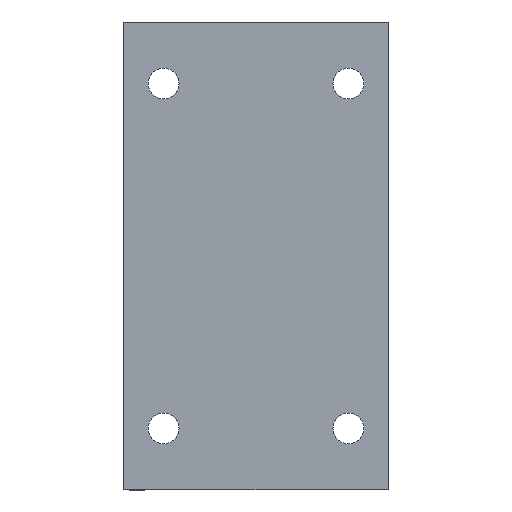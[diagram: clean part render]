
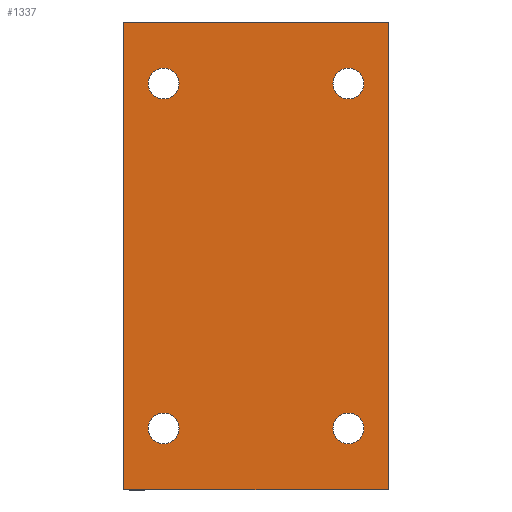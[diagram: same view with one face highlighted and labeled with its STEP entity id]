
A CAD part, front view. The second image highlights one B-rep face of the part: STEP entity #1337.
In plain terms, the highlighted planar face has unit normal (0, -1, 0).
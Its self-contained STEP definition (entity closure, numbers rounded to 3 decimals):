
#12 = CIRCLE ( 'NONE', #598, 2.5 ) ;
#28 = CARTESIAN_POINT ( 'NONE',  ( 15., -15., 25.5 ) ) ;
#44 = ORIENTED_EDGE ( 'NONE', *, *, #1374, .F. ) ;
#56 = EDGE_LOOP ( 'NONE', ( #1048, #515 ) ) ;
#74 = DIRECTION ( 'NONE',  ( 0., 0., -1. ) ) ;
#77 = AXIS2_PLACEMENT_3D ( 'NONE', #334, #469, #1437 ) ;
#113 = EDGE_CURVE ( 'NONE', #1190, #1157, #1650, .T. ) ;
#144 = DIRECTION ( 'NONE',  ( 0., -1., 0. ) ) ;
#159 = CARTESIAN_POINT ( 'NONE',  ( -21.5, -15., 38. ) ) ;
#206 = CARTESIAN_POINT ( 'NONE',  ( 15., -15., -25.5 ) ) ;
#221 = ORIENTED_EDGE ( 'NONE', *, *, #1725, .F. ) ;
#238 = DIRECTION ( 'NONE',  ( 0., -1., 0. ) ) ;
#239 = AXIS2_PLACEMENT_3D ( 'NONE', #621, #1363, #2101 ) ;
#246 = VERTEX_POINT ( 'NONE', #680 ) ;
#247 = ORIENTED_EDGE ( 'NONE', *, *, #1648, .F. ) ;
#295 = EDGE_CURVE ( 'NONE', #1942, #833, #12, .T. ) ;
#302 = DIRECTION ( 'NONE',  ( 1., 0., 0. ) ) ;
#334 = CARTESIAN_POINT ( 'NONE',  ( -15., -15., -28. ) ) ;
#347 = CIRCLE ( 'NONE', #77, 2.5 ) ;
#424 = ORIENTED_EDGE ( 'NONE', *, *, #536, .T. ) ;
#435 = AXIS2_PLACEMENT_3D ( 'NONE', #755, #238, #989 ) ;
#469 = DIRECTION ( 'NONE',  ( 0., -1., 0. ) ) ;
#510 = DIRECTION ( 'NONE',  ( 0., 0., 1. ) ) ;
#513 = DIRECTION ( 'NONE',  ( 1., 0., 0. ) ) ;
#515 = ORIENTED_EDGE ( 'NONE', *, *, #113, .F. ) ;
#522 = DIRECTION ( 'NONE',  ( 0., 1., 0. ) ) ;
#536 = EDGE_CURVE ( 'NONE', #805, #591, #906, .T. ) ;
#591 = VERTEX_POINT ( 'NONE', #893 ) ;
#598 = AXIS2_PLACEMENT_3D ( 'NONE', #1248, #2390, #719 ) ;
#606 = CARTESIAN_POINT ( 'NONE',  ( 15., -15., 28. ) ) ;
#620 = LINE ( 'NONE', #1900, #2166 ) ;
#621 = CARTESIAN_POINT ( 'NONE',  ( 15., -15., -28. ) ) ;
#649 = ORIENTED_EDGE ( 'NONE', *, *, #295, .F. ) ;
#664 = VERTEX_POINT ( 'NONE', #2059 ) ;
#666 = AXIS2_PLACEMENT_3D ( 'NONE', #159, #522, #510 ) ;
#667 = CIRCLE ( 'NONE', #2055, 2.5 ) ;
#680 = CARTESIAN_POINT ( 'NONE',  ( 21.5, -15., 38. ) ) ;
#686 = LINE ( 'NONE', #1233, #2393 ) ;
#719 = DIRECTION ( 'NONE',  ( 0., 0., -1. ) ) ;
#721 = EDGE_LOOP ( 'NONE', ( #1317, #1645 ) ) ;
#725 = FACE_BOUND ( 'NONE', #56, .T. ) ;
#755 = CARTESIAN_POINT ( 'NONE',  ( 15., -15., 28. ) ) ;
#804 = CARTESIAN_POINT ( 'NONE',  ( 15., -15., 30.5 ) ) ;
#805 = VERTEX_POINT ( 'NONE', #1024 ) ;
#833 = VERTEX_POINT ( 'NONE', #1063 ) ;
#841 = EDGE_CURVE ( 'NONE', #1076, #1289, #347, .T. ) ;
#855 = CARTESIAN_POINT ( 'NONE',  ( -21.5, -15., 38. ) ) ;
#873 = FACE_BOUND ( 'NONE', #721, .T. ) ;
#874 = EDGE_CURVE ( 'NONE', #591, #2025, #686, .T. ) ;
#893 = CARTESIAN_POINT ( 'NONE',  ( -21.5, -15., -38. ) ) ;
#901 = CIRCLE ( 'NONE', #2247, 2.5 ) ;
#906 = LINE ( 'NONE', #855, #2299 ) ;
#989 = DIRECTION ( 'NONE',  ( 0., 0., -1. ) ) ;
#998 = DIRECTION ( 'NONE',  ( 0., -1., 0. ) ) ;
#1024 = CARTESIAN_POINT ( 'NONE',  ( -21.5, -15., 38. ) ) ;
#1048 = ORIENTED_EDGE ( 'NONE', *, *, #2380, .F. ) ;
#1058 = CARTESIAN_POINT ( 'NONE',  ( -15., -15., 25.5 ) ) ;
#1063 = CARTESIAN_POINT ( 'NONE',  ( 15., -15., -30.5 ) ) ;
#1076 = VERTEX_POINT ( 'NONE', #1304 ) ;
#1129 = DIRECTION ( 'NONE',  ( 0., -1., 0. ) ) ;
#1157 = VERTEX_POINT ( 'NONE', #28 ) ;
#1167 = EDGE_LOOP ( 'NONE', ( #1261, #649 ) ) ;
#1190 = VERTEX_POINT ( 'NONE', #804 ) ;
#1210 = AXIS2_PLACEMENT_3D ( 'NONE', #2146, #1626, #2165 ) ;
#1233 = CARTESIAN_POINT ( 'NONE',  ( -21.5, -15., -38. ) ) ;
#1248 = CARTESIAN_POINT ( 'NONE',  ( 15., -15., -28. ) ) ;
#1257 = EDGE_CURVE ( 'NONE', #246, #2025, #620, .T. ) ;
#1261 = ORIENTED_EDGE ( 'NONE', *, *, #1661, .F. ) ;
#1289 = VERTEX_POINT ( 'NONE', #1778 ) ;
#1301 = EDGE_LOOP ( 'NONE', ( #1372, #1729, #221, #424 ) ) ;
#1304 = CARTESIAN_POINT ( 'NONE',  ( -15., -15., -30.5 ) ) ;
#1317 = ORIENTED_EDGE ( 'NONE', *, *, #841, .F. ) ;
#1337 = ADVANCED_FACE ( 'NONE', ( #725, #2385, #873, #1655, #1644 ), #1998, .F. ) ;
#1363 = DIRECTION ( 'NONE',  ( 0., -1., 0. ) ) ;
#1372 = ORIENTED_EDGE ( 'NONE', *, *, #874, .T. ) ;
#1374 = EDGE_CURVE ( 'NONE', #664, #1703, #901, .T. ) ;
#1437 = DIRECTION ( 'NONE',  ( 0., 0., -1. ) ) ;
#1456 = DIRECTION ( 'NONE',  ( 0., 0., -1. ) ) ;
#1475 = CIRCLE ( 'NONE', #239, 2.5 ) ;
#1626 = DIRECTION ( 'NONE',  ( 0., -1., 0. ) ) ;
#1644 = FACE_BOUND ( 'NONE', #1167, .T. ) ;
#1645 = ORIENTED_EDGE ( 'NONE', *, *, #1761, .F. ) ;
#1648 = EDGE_CURVE ( 'NONE', #1703, #664, #667, .T. ) ;
#1650 = CIRCLE ( 'NONE', #2304, 2.5 ) ;
#1655 = FACE_OUTER_BOUND ( 'NONE', #1301, .T. ) ;
#1661 = EDGE_CURVE ( 'NONE', #833, #1942, #1475, .T. ) ;
#1703 = VERTEX_POINT ( 'NONE', #1058 ) ;
#1725 = EDGE_CURVE ( 'NONE', #805, #246, #1807, .T. ) ;
#1729 = ORIENTED_EDGE ( 'NONE', *, *, #1257, .F. ) ;
#1761 = EDGE_CURVE ( 'NONE', #1289, #1076, #2249, .T. ) ;
#1768 = DIRECTION ( 'NONE',  ( 0., 0., -1. ) ) ;
#1778 = CARTESIAN_POINT ( 'NONE',  ( -15., -15., -25.5 ) ) ;
#1807 = LINE ( 'NONE', #1965, #2359 ) ;
#1884 = DIRECTION ( 'NONE',  ( 0., 0., -1. ) ) ;
#1900 = CARTESIAN_POINT ( 'NONE',  ( 21.5, -15., 38. ) ) ;
#1926 = CARTESIAN_POINT ( 'NONE',  ( -15., -15., 28. ) ) ;
#1942 = VERTEX_POINT ( 'NONE', #206 ) ;
#1949 = CIRCLE ( 'NONE', #435, 2.5 ) ;
#1965 = CARTESIAN_POINT ( 'NONE',  ( -21.5, -15., 38. ) ) ;
#1977 = CARTESIAN_POINT ( 'NONE',  ( -15., -15., 28. ) ) ;
#1996 = EDGE_LOOP ( 'NONE', ( #247, #44 ) ) ;
#1998 = PLANE ( 'NONE',  #666 ) ;
#2025 = VERTEX_POINT ( 'NONE', #2261 ) ;
#2055 = AXIS2_PLACEMENT_3D ( 'NONE', #1926, #998, #1768 ) ;
#2059 = CARTESIAN_POINT ( 'NONE',  ( -15., -15., 30.5 ) ) ;
#2101 = DIRECTION ( 'NONE',  ( 0., 0., -1. ) ) ;
#2146 = CARTESIAN_POINT ( 'NONE',  ( -15., -15., -28. ) ) ;
#2165 = DIRECTION ( 'NONE',  ( 0., 0., -1. ) ) ;
#2166 = VECTOR ( 'NONE', #74, 1000. ) ;
#2167 = DIRECTION ( 'NONE',  ( 0., 0., -1. ) ) ;
#2247 = AXIS2_PLACEMENT_3D ( 'NONE', #1977, #144, #2167 ) ;
#2249 = CIRCLE ( 'NONE', #1210, 2.5 ) ;
#2261 = CARTESIAN_POINT ( 'NONE',  ( 21.5, -15., -38. ) ) ;
#2299 = VECTOR ( 'NONE', #1456, 1000. ) ;
#2304 = AXIS2_PLACEMENT_3D ( 'NONE', #606, #1129, #1884 ) ;
#2359 = VECTOR ( 'NONE', #302, 1000. ) ;
#2380 = EDGE_CURVE ( 'NONE', #1157, #1190, #1949, .T. ) ;
#2385 = FACE_BOUND ( 'NONE', #1996, .T. ) ;
#2390 = DIRECTION ( 'NONE',  ( 0., -1., 0. ) ) ;
#2393 = VECTOR ( 'NONE', #513, 1000. ) ;
